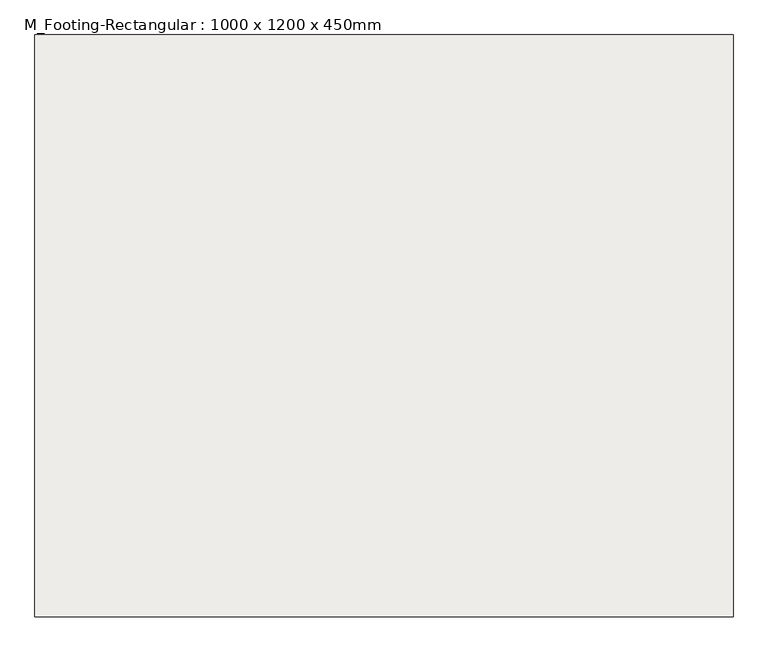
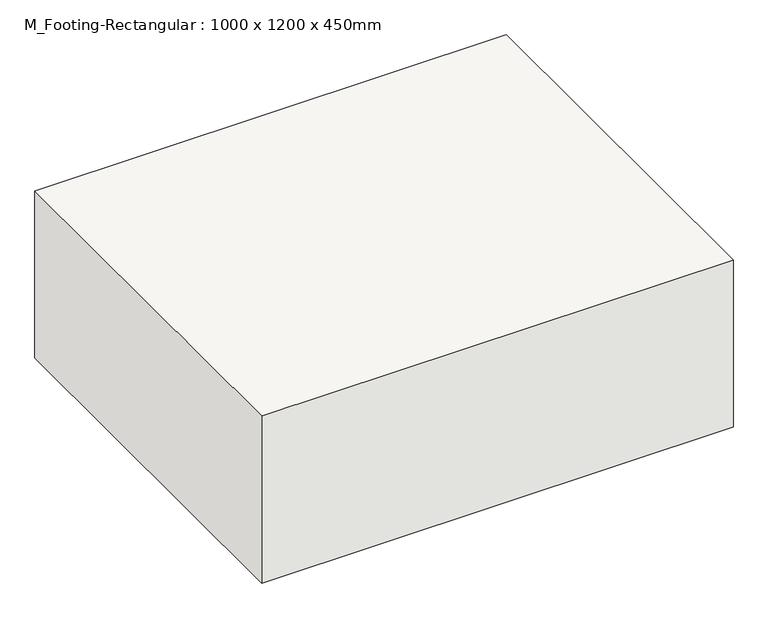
"""IFC4 building model written with IfcOpenShell, lengths in millimetres: slab geometry, M_Footing-Rectangular : 1000 x 1200 x 450mm."""

from ifc_helpers import new_model, si_unit, frame, origin, place, context, project, spatial, polyline, outline, extrude, source, transform, mapped, element, save


def m_footing_rectangular_1000_x_1200_x_450mm_b4386320(model_context):
    return source(origin(), model_context, "Body", "SweptSolid", [
        extrude(outline(polyline([(600.0, 500.0), (600.0, -500.0), (-600.0, -500.0), (-600.0, 500.0), (600.0, 500.0)])), frame((0.0, 0.0, -450.0), z_axis=(0.0, 0.0, 1.0), x_axis=(1.0, 0.0, 0.0)), (0.0, 0.0, 1.0), 450.0),
    ])


if __name__ == "__main__":
    model = new_model("IFC4")
    model_context = context("Model", 3, world=origin())
    ifc_project = project(units=[si_unit("LENGTHUNIT", "METRE", prefix="MILLI")], contexts=[model_context])
    site = spatial("IfcSite", under=ifc_project)
    building = spatial("IfcBuilding", under=site)
    placement = place(None, origin())
    m_footing_rectangular_1000_x_1200_x_450mm_shape = m_footing_rectangular_1000_x_1200_x_450mm_b4386320(model_context)
    element("IfcSlab", 1, ObjectType="M_Footing-Rectangular : 1000 x 1200 x 450mm", at=placement, inside=building, context=model_context, shape_type="MappedRepresentation", body=[
        mapped(m_footing_rectangular_1000_x_1200_x_450mm_shape, transform((0.0, 0.0, 0.0), x_axis=(1.0, 0.0, 0.0), y_axis=(0.0, 1.0, 0.0), z_axis=(0.0, 0.0, 1.0))),
    ])
    save(model, "model.ifc")
